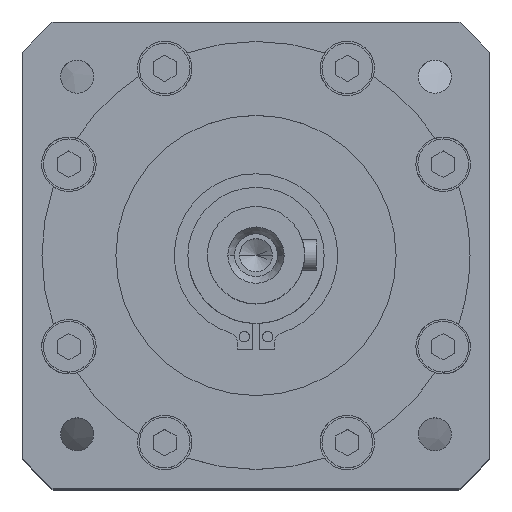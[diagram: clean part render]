
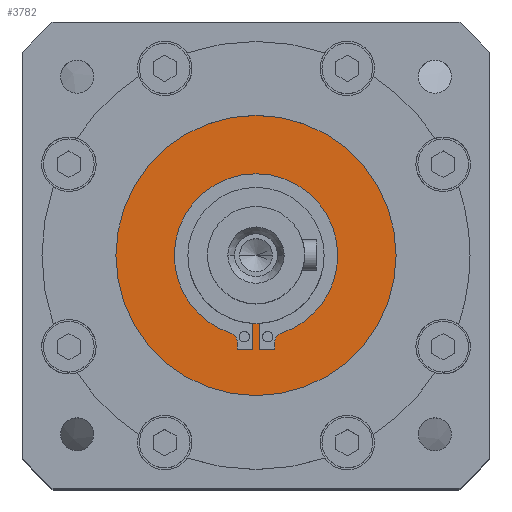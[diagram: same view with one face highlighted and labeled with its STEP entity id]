
A CAD part, top view. The second image highlights one B-rep face of the part: STEP entity #3782.
In plain terms, the highlighted planar face has unit normal (0, 0, 1).
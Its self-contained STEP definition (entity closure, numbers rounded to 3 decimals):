
#117 = ORIENTED_EDGE ( 'NONE', *, *, #3137, .F. ) ;
#480 = FACE_BOUND ( 'NONE', #2939, .T. ) ;
#513 = CARTESIAN_POINT ( 'NONE',  ( 0., 0., -2.7 ) ) ;
#636 = EDGE_CURVE ( 'NONE', #3022, #14318, #12379, .T. ) ;
#936 = ORIENTED_EDGE ( 'NONE', *, *, #21624, .F. ) ;
#990 = CARTESIAN_POINT ( 'NONE',  ( -6.568, -19.946, -2.7 ) ) ;
#1119 = PLANE ( 'NONE',  #3315 ) ;
#1152 = CARTESIAN_POINT ( 'NONE',  ( 21., 0., -2.7 ) ) ;
#1165 = CARTESIAN_POINT ( 'NONE',  ( 0.85, -24.279, -2.7 ) ) ;
#1274 = VERTEX_POINT ( 'NONE', #17213 ) ;
#1456 = DIRECTION ( 'NONE',  ( 0., 0., -1. ) ) ;
#1530 = VERTEX_POINT ( 'NONE', #19489 ) ;
#1598 = DIRECTION ( 'NONE',  ( 1., 0., 0. ) ) ;
#1656 = ORIENTED_EDGE ( 'NONE', *, *, #15537, .T. ) ;
#2526 = CARTESIAN_POINT ( 'NONE',  ( 4.85, -22.321, -2.7 ) ) ;
#2771 = DIRECTION ( 'NONE',  ( -1., 0., 0. ) ) ;
#2784 = DIRECTION ( 'NONE',  ( 0., 0., -1. ) ) ;
#2790 = CARTESIAN_POINT ( 'NONE',  ( -7.35, -22.321, -2.7 ) ) ;
#2939 = EDGE_LOOP ( 'NONE', ( #14156, #117, #13277, #21120, #9052, #18026, #16920, #15182, #13697, #17563, #3422, #21705, #5395, #936 ) ) ;
#3022 = VERTEX_POINT ( 'NONE', #4410 ) ;
#3084 = AXIS2_PLACEMENT_3D ( 'NONE', #4020, #5808, #7172 ) ;
#3137 = EDGE_CURVE ( 'NONE', #16617, #7006, #11199, .T. ) ;
#3315 = AXIS2_PLACEMENT_3D ( 'NONE', #513, #1456, #10165 ) ;
#3422 = ORIENTED_EDGE ( 'NONE', *, *, #16666, .F. ) ;
#3720 = CARTESIAN_POINT ( 'NONE',  ( -0.85, -24.279, -2.7 ) ) ;
#3782 = ADVANCED_FACE ( 'NONE', ( #9793, #480 ), #1119, .F. ) ;
#3982 = VERTEX_POINT ( 'NONE', #11770 ) ;
#4020 = CARTESIAN_POINT ( 'NONE',  ( 0., 0., -2.7 ) ) ;
#4203 = CARTESIAN_POINT ( 'NONE',  ( 4.35, -24.279, -2.7 ) ) ;
#4342 = CIRCLE ( 'NONE', #17522, 0.5 ) ;
#4410 = CARTESIAN_POINT ( 'NONE',  ( 4.85, -23.779, -2.7 ) ) ;
#4661 = DIRECTION ( 'NONE',  ( 0., -1., 0. ) ) ;
#4715 = DIRECTION ( 'NONE',  ( 1., 0., 0. ) ) ;
#4805 = DIRECTION ( 'NONE',  ( 0., 0., 1. ) ) ;
#4908 = EDGE_CURVE ( 'NONE', #8804, #16617, #4342, .T. ) ;
#4972 = CARTESIAN_POINT ( 'NONE',  ( -0.85, -24.279, -2.7 ) ) ;
#4984 = VECTOR ( 'NONE', #1598, 1000. ) ;
#5395 = ORIENTED_EDGE ( 'NONE', *, *, #19478, .F. ) ;
#5808 = DIRECTION ( 'NONE',  ( 0., 0., 1. ) ) ;
#5845 = VERTEX_POINT ( 'NONE', #7261 ) ;
#6004 = CIRCLE ( 'NONE', #10142, 2.5 ) ;
#6211 = DIRECTION ( 'NONE',  ( -1., 0., 0. ) ) ;
#6216 = DIRECTION ( 'NONE',  ( 0., 0., 1. ) ) ;
#6240 = CARTESIAN_POINT ( 'NONE',  ( 0., 0., -2.7 ) ) ;
#6439 = CARTESIAN_POINT ( 'NONE',  ( 0.85, -17.479, -2.7 ) ) ;
#6475 = VECTOR ( 'NONE', #9109, 1000. ) ;
#7006 = VERTEX_POINT ( 'NONE', #19899 ) ;
#7172 = DIRECTION ( 'NONE',  ( -1., 0., 0. ) ) ;
#7261 = CARTESIAN_POINT ( 'NONE',  ( -36., 0., -2.7 ) ) ;
#7387 = DIRECTION ( 'NONE',  ( 0., 0., -1. ) ) ;
#7550 = CIRCLE ( 'NONE', #3084, 21. ) ;
#7590 = DIRECTION ( 'NONE',  ( 0., 0., 1. ) ) ;
#7783 = DIRECTION ( 'NONE',  ( -1., 0., 0. ) ) ;
#7786 = VECTOR ( 'NONE', #16438, 1000. ) ;
#8156 = CARTESIAN_POINT ( 'NONE',  ( 0.85, -24.279, -2.7 ) ) ;
#8306 = CARTESIAN_POINT ( 'NONE',  ( -4.35, -23.779, -2.7 ) ) ;
#8386 = VERTEX_POINT ( 'NONE', #22043 ) ;
#8434 = EDGE_CURVE ( 'NONE', #8386, #20499, #10310, .T. ) ;
#8804 = VERTEX_POINT ( 'NONE', #16552 ) ;
#9052 = ORIENTED_EDGE ( 'NONE', *, *, #9569, .F. ) ;
#9109 = DIRECTION ( 'NONE',  ( 0., -1., 0. ) ) ;
#9437 = EDGE_CURVE ( 'NONE', #1274, #5845, #10552, .T. ) ;
#9569 = EDGE_CURVE ( 'NONE', #12007, #1530, #6004, .T. ) ;
#9793 = FACE_OUTER_BOUND ( 'NONE', #19805, .T. ) ;
#9822 = AXIS2_PLACEMENT_3D ( 'NONE', #12519, #7387, #12598 ) ;
#10076 = AXIS2_PLACEMENT_3D ( 'NONE', #22176, #22154, #22147 ) ;
#10142 = AXIS2_PLACEMENT_3D ( 'NONE', #2790, #2784, #2771 ) ;
#10165 = DIRECTION ( 'NONE',  ( -1., 0., 0. ) ) ;
#10172 = CIRCLE ( 'NONE', #10882, 21. ) ;
#10310 = CIRCLE ( 'NONE', #10076, 21. ) ;
#10416 = AXIS2_PLACEMENT_3D ( 'NONE', #11477, #11431, #11404 ) ;
#10480 = VERTEX_POINT ( 'NONE', #22365 ) ;
#10552 = CIRCLE ( 'NONE', #19233, 36. ) ;
#10882 = AXIS2_PLACEMENT_3D ( 'NONE', #12925, #14670, #7783 ) ;
#11040 = LINE ( 'NONE', #14293, #6475 ) ;
#11048 = AXIS2_PLACEMENT_3D ( 'NONE', #17926, #7590, #19654 ) ;
#11199 = LINE ( 'NONE', #3720, #4984 ) ;
#11404 = DIRECTION ( 'NONE',  ( -1., 0., 0. ) ) ;
#11431 = DIRECTION ( 'NONE',  ( 0., 0., 1. ) ) ;
#11477 = CARTESIAN_POINT ( 'NONE',  ( 0., 0., -2.7 ) ) ;
#11580 = VERTEX_POINT ( 'NONE', #6439 ) ;
#11751 = CARTESIAN_POINT ( 'NONE',  ( -4.35, -24.279, -2.7 ) ) ;
#11770 = CARTESIAN_POINT ( 'NONE',  ( -0.85, -17.479, -2.7 ) ) ;
#12007 = VERTEX_POINT ( 'NONE', #990 ) ;
#12379 = LINE ( 'NONE', #15285, #7786 ) ;
#12443 = EDGE_CURVE ( 'NONE', #20499, #10480, #10172, .T. ) ;
#12519 = CARTESIAN_POINT ( 'NONE',  ( 7.35, -22.321, -2.7 ) ) ;
#12598 = DIRECTION ( 'NONE',  ( 1., 0., 0. ) ) ;
#12765 = DIRECTION ( 'NONE',  ( 1., 0., 0. ) ) ;
#12925 = CARTESIAN_POINT ( 'NONE',  ( 0., 0., -2.7 ) ) ;
#13277 = ORIENTED_EDGE ( 'NONE', *, *, #4908, .F. ) ;
#13325 = ORIENTED_EDGE ( 'NONE', *, *, #9437, .T. ) ;
#13697 = ORIENTED_EDGE ( 'NONE', *, *, #16978, .F. ) ;
#14156 = ORIENTED_EDGE ( 'NONE', *, *, #19146, .F. ) ;
#14293 = CARTESIAN_POINT ( 'NONE',  ( -4.85, -23.779, -2.7 ) ) ;
#14318 = VERTEX_POINT ( 'NONE', #2526 ) ;
#14670 = DIRECTION ( 'NONE',  ( 0., 0., 1. ) ) ;
#14844 = CIRCLE ( 'NONE', #14957, 0.5 ) ;
#14957 = AXIS2_PLACEMENT_3D ( 'NONE', #19615, #21345, #12765 ) ;
#14984 = VERTEX_POINT ( 'NONE', #21150 ) ;
#15182 = ORIENTED_EDGE ( 'NONE', *, *, #8434, .F. ) ;
#15285 = CARTESIAN_POINT ( 'NONE',  ( 4.85, -23.779, -2.7 ) ) ;
#15470 = LINE ( 'NONE', #1165, #16016 ) ;
#15537 = EDGE_CURVE ( 'NONE', #5845, #1274, #17859, .T. ) ;
#15723 = DIRECTION ( 'NONE',  ( -1., 0., 0. ) ) ;
#15756 = LINE ( 'NONE', #4972, #19797 ) ;
#16016 = VECTOR ( 'NONE', #4661, 1000. ) ;
#16438 = DIRECTION ( 'NONE',  ( 0., 1., 0. ) ) ;
#16552 = CARTESIAN_POINT ( 'NONE',  ( -4.85, -23.779, -2.7 ) ) ;
#16617 = VERTEX_POINT ( 'NONE', #11751 ) ;
#16666 = EDGE_CURVE ( 'NONE', #18786, #3022, #14844, .T. ) ;
#16920 = ORIENTED_EDGE ( 'NONE', *, *, #12443, .F. ) ;
#16948 = EDGE_CURVE ( 'NONE', #10480, #12007, #7550, .T. ) ;
#16978 = EDGE_CURVE ( 'NONE', #14318, #8386, #20782, .T. ) ;
#17213 = CARTESIAN_POINT ( 'NONE',  ( 36., 0., -2.7 ) ) ;
#17522 = AXIS2_PLACEMENT_3D ( 'NONE', #8306, #4805, #15723 ) ;
#17563 = ORIENTED_EDGE ( 'NONE', *, *, #636, .F. ) ;
#17859 = CIRCLE ( 'NONE', #10416, 36. ) ;
#17872 = VECTOR ( 'NONE', #4715, 1000. ) ;
#17926 = CARTESIAN_POINT ( 'NONE',  ( 0., 0., -2.7 ) ) ;
#18026 = ORIENTED_EDGE ( 'NONE', *, *, #16948, .F. ) ;
#18786 = VERTEX_POINT ( 'NONE', #4203 ) ;
#19146 = EDGE_CURVE ( 'NONE', #7006, #3982, #15756, .T. ) ;
#19233 = AXIS2_PLACEMENT_3D ( 'NONE', #6240, #6216, #6211 ) ;
#19478 = EDGE_CURVE ( 'NONE', #11580, #14984, #15470, .T. ) ;
#19489 = CARTESIAN_POINT ( 'NONE',  ( -4.85, -22.321, -2.7 ) ) ;
#19492 = LINE ( 'NONE', #8156, #17872 ) ;
#19615 = CARTESIAN_POINT ( 'NONE',  ( 4.35, -23.779, -2.7 ) ) ;
#19654 = DIRECTION ( 'NONE',  ( -1., 0., 0. ) ) ;
#19797 = VECTOR ( 'NONE', #20939, 1000. ) ;
#19805 = EDGE_LOOP ( 'NONE', ( #13325, #1656 ) ) ;
#19899 = CARTESIAN_POINT ( 'NONE',  ( -0.85, -24.279, -2.7 ) ) ;
#20480 = EDGE_CURVE ( 'NONE', #14984, #18786, #19492, .T. ) ;
#20499 = VERTEX_POINT ( 'NONE', #1152 ) ;
#20541 = CIRCLE ( 'NONE', #11048, 17.5 ) ;
#20782 = CIRCLE ( 'NONE', #9822, 2.5 ) ;
#20939 = DIRECTION ( 'NONE',  ( 0., 1., 0. ) ) ;
#21120 = ORIENTED_EDGE ( 'NONE', *, *, #22054, .F. ) ;
#21150 = CARTESIAN_POINT ( 'NONE',  ( 0.85, -24.279, -2.7 ) ) ;
#21345 = DIRECTION ( 'NONE',  ( 0., 0., 1. ) ) ;
#21624 = EDGE_CURVE ( 'NONE', #3982, #11580, #20541, .T. ) ;
#21705 = ORIENTED_EDGE ( 'NONE', *, *, #20480, .F. ) ;
#22043 = CARTESIAN_POINT ( 'NONE',  ( 6.568, -19.946, -2.7 ) ) ;
#22054 = EDGE_CURVE ( 'NONE', #1530, #8804, #11040, .T. ) ;
#22147 = DIRECTION ( 'NONE',  ( -1., 0., 0. ) ) ;
#22154 = DIRECTION ( 'NONE',  ( 0., 0., 1. ) ) ;
#22176 = CARTESIAN_POINT ( 'NONE',  ( 0., 0., -2.7 ) ) ;
#22365 = CARTESIAN_POINT ( 'NONE',  ( -21., 0., -2.7 ) ) ;
